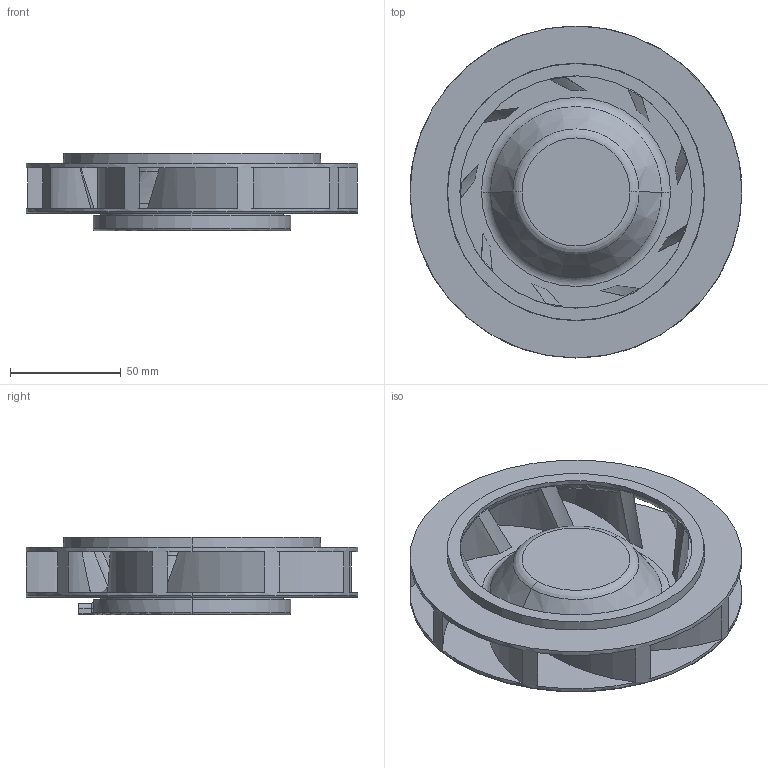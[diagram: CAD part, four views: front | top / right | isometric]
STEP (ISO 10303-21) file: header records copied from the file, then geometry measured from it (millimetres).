
FILE_DESCRIPTION (( 'STEP AP203' ), '1' );
FILE_NAME ('150x35_9TN.STEP', '2016-12-29T05:20:33', ( '' ), ( '' ), 'SwSTEP 2.0', 'SolidWorks 2016', '' );
FILE_SCHEMA (( 'CONFIG_CONTROL_DESIGN' ));
Length unit declared in the file: millimetre
Products named in the file (1): 150x35_9TN
Bounding box: 150 x 150 x 35 mm (x, y, z)
Volume: 208317.7 mm3; surface area: 79661.2 mm2
Topology: 1 solids, 1 shells, 114 faces, 307 edges, 191 vertices
Faces by surface type: cylinder 42, plane 33, torus 20, cone 13, bspline 6
Entity records: 4369 total; most frequent: CARTESIAN_POINT 1361, DIRECTION 670, ORIENTED_EDGE 610, AXIS2_PLACEMENT_3D 306, EDGE_CURVE 305, CIRCLE 197, VERTEX_POINT 191, EDGE_LOOP 130
